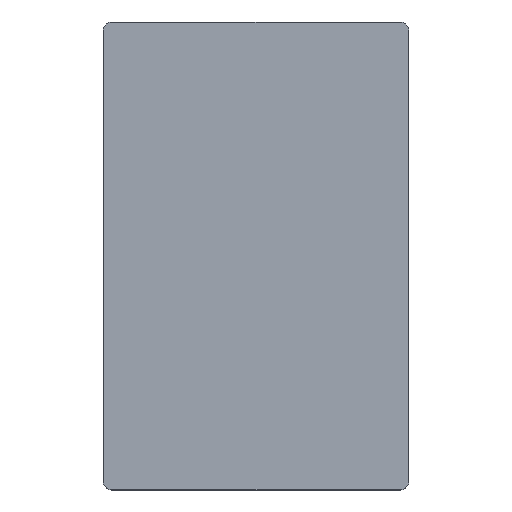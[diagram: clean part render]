
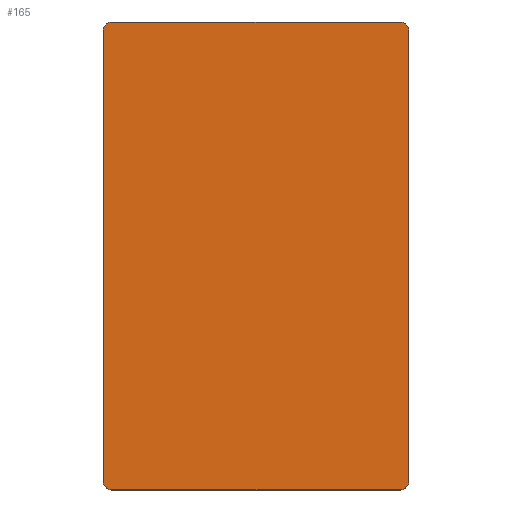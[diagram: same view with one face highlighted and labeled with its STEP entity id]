
A CAD part, top view. The second image highlights one B-rep face of the part: STEP entity #165.
In plain terms, the highlighted planar face has unit normal (0, 0, 1).
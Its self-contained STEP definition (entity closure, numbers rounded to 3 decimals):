
#3 = LINE ( 'NONE', #438, #273 ) ;
#8 = DIRECTION ( 'NONE',  ( -1., 0., 0. ) ) ;
#11 = AXIS2_PLACEMENT_3D ( 'NONE', #95, #134, #386 ) ;
#14 = CARTESIAN_POINT ( 'NONE',  ( -20.048, -106.871, 0. ) ) ;
#60 = CARTESIAN_POINT ( 'NONE',  ( -18.048, -0.121, 0. ) ) ;
#65 = DIRECTION ( 'NONE',  ( 1., 0., 0. ) ) ;
#69 = VECTOR ( 'NONE', #238, 1000. ) ;
#70 = ORIENTED_EDGE ( 'NONE', *, *, #471, .T. ) ;
#74 = EDGE_CURVE ( 'NONE', #338, #366, #415, .T. ) ;
#93 = ORIENTED_EDGE ( 'NONE', *, *, #172, .F. ) ;
#95 = CARTESIAN_POINT ( 'NONE',  ( 50.352, -106.871, 0. ) ) ;
#113 = DIRECTION ( 'NONE',  ( 0., 1., 0. ) ) ;
#120 = ORIENTED_EDGE ( 'NONE', *, *, #436, .T. ) ;
#126 = LINE ( 'NONE', #155, #342 ) ;
#129 = CARTESIAN_POINT ( 'NONE',  ( -20.048, 0., 0. ) ) ;
#134 = DIRECTION ( 'NONE',  ( 0., 0., 1. ) ) ;
#136 = AXIS2_PLACEMENT_3D ( 'NONE', #262, #192, #336 ) ;
#139 = LINE ( 'NONE', #129, #414 ) ;
#149 = VERTEX_POINT ( 'NONE', #188 ) ;
#155 = CARTESIAN_POINT ( 'NONE',  ( 0., -108.871, 0. ) ) ;
#158 = AXIS2_PLACEMENT_3D ( 'NONE', #169, #278, #315 ) ;
#162 = ORIENTED_EDGE ( 'NONE', *, *, #268, .F. ) ;
#163 = CARTESIAN_POINT ( 'NONE',  ( 52.352, -106.871, 0. ) ) ;
#164 = CARTESIAN_POINT ( 'NONE',  ( -18.048, 1.879, 0. ) ) ;
#165 = ADVANCED_FACE ( 'NONE', ( #364 ), #446, .T. ) ;
#169 = CARTESIAN_POINT ( 'NONE',  ( 50.352, -0.121, 0. ) ) ;
#172 = EDGE_CURVE ( 'NONE', #276, #366, #126, .T. ) ;
#173 = CIRCLE ( 'NONE', #11, 2. ) ;
#188 = CARTESIAN_POINT ( 'NONE',  ( 50.352, 1.879, 0. ) ) ;
#192 = DIRECTION ( 'NONE',  ( 0., 0., 1. ) ) ;
#202 = CARTESIAN_POINT ( 'NONE',  ( 0., 1.879, 0. ) ) ;
#204 = ORIENTED_EDGE ( 'NONE', *, *, #329, .T. ) ;
#220 = EDGE_LOOP ( 'NONE', ( #70, #356, #204, #261, #162, #468, #93, #120 ) ) ;
#235 = DIRECTION ( 'NONE',  ( 1., 0., 0. ) ) ;
#236 = AXIS2_PLACEMENT_3D ( 'NONE', #304, #335, #235 ) ;
#237 = CARTESIAN_POINT ( 'NONE',  ( 50.352, -108.871, 0. ) ) ;
#238 = DIRECTION ( 'NONE',  ( -1., 0., 0. ) ) ;
#246 = CARTESIAN_POINT ( 'NONE',  ( -18.048, -108.871, 0. ) ) ;
#252 = VERTEX_POINT ( 'NONE', #164 ) ;
#261 = ORIENTED_EDGE ( 'NONE', *, *, #424, .T. ) ;
#262 = CARTESIAN_POINT ( 'NONE',  ( -18.048, -106.871, 0. ) ) ;
#268 = EDGE_CURVE ( 'NONE', #338, #464, #139, .T. ) ;
#273 = VECTOR ( 'NONE', #113, 1000. ) ;
#275 = DIRECTION ( 'NONE',  ( 0., 1., 0. ) ) ;
#276 = VERTEX_POINT ( 'NONE', #237 ) ;
#278 = DIRECTION ( 'NONE',  ( 0., 0., 1. ) ) ;
#280 = CIRCLE ( 'NONE', #410, 2. ) ;
#304 = CARTESIAN_POINT ( 'NONE',  ( 16.152, -80.246, 0. ) ) ;
#315 = DIRECTION ( 'NONE',  ( 1., 0., 0. ) ) ;
#329 = EDGE_CURVE ( 'NONE', #149, #252, #401, .T. ) ;
#333 = VERTEX_POINT ( 'NONE', #163 ) ;
#335 = DIRECTION ( 'NONE',  ( 0., 0., 1. ) ) ;
#336 = DIRECTION ( 'NONE',  ( 1., 0., 0. ) ) ;
#338 = VERTEX_POINT ( 'NONE', #14 ) ;
#342 = VECTOR ( 'NONE', #8, 1000. ) ;
#350 = CARTESIAN_POINT ( 'NONE',  ( -20.048, -0.121, 0. ) ) ;
#356 = ORIENTED_EDGE ( 'NONE', *, *, #447, .T. ) ;
#362 = DIRECTION ( 'NONE',  ( 0., 0., 1. ) ) ;
#364 = FACE_OUTER_BOUND ( 'NONE', #220, .T. ) ;
#366 = VERTEX_POINT ( 'NONE', #246 ) ;
#386 = DIRECTION ( 'NONE',  ( 1., 0., 0. ) ) ;
#390 = VERTEX_POINT ( 'NONE', #425 ) ;
#401 = LINE ( 'NONE', #202, #69 ) ;
#410 = AXIS2_PLACEMENT_3D ( 'NONE', #60, #362, #65 ) ;
#414 = VECTOR ( 'NONE', #275, 1000. ) ;
#415 = CIRCLE ( 'NONE', #136, 2. ) ;
#424 = EDGE_CURVE ( 'NONE', #252, #464, #280, .T. ) ;
#425 = CARTESIAN_POINT ( 'NONE',  ( 52.352, -0.121, 0. ) ) ;
#436 = EDGE_CURVE ( 'NONE', #276, #333, #173, .T. ) ;
#438 = CARTESIAN_POINT ( 'NONE',  ( 52.352, 0., 0. ) ) ;
#446 = PLANE ( 'NONE',  #236 ) ;
#447 = EDGE_CURVE ( 'NONE', #390, #149, #449, .T. ) ;
#449 = CIRCLE ( 'NONE', #158, 2. ) ;
#464 = VERTEX_POINT ( 'NONE', #350 ) ;
#468 = ORIENTED_EDGE ( 'NONE', *, *, #74, .T. ) ;
#471 = EDGE_CURVE ( 'NONE', #333, #390, #3, .T. ) ;
